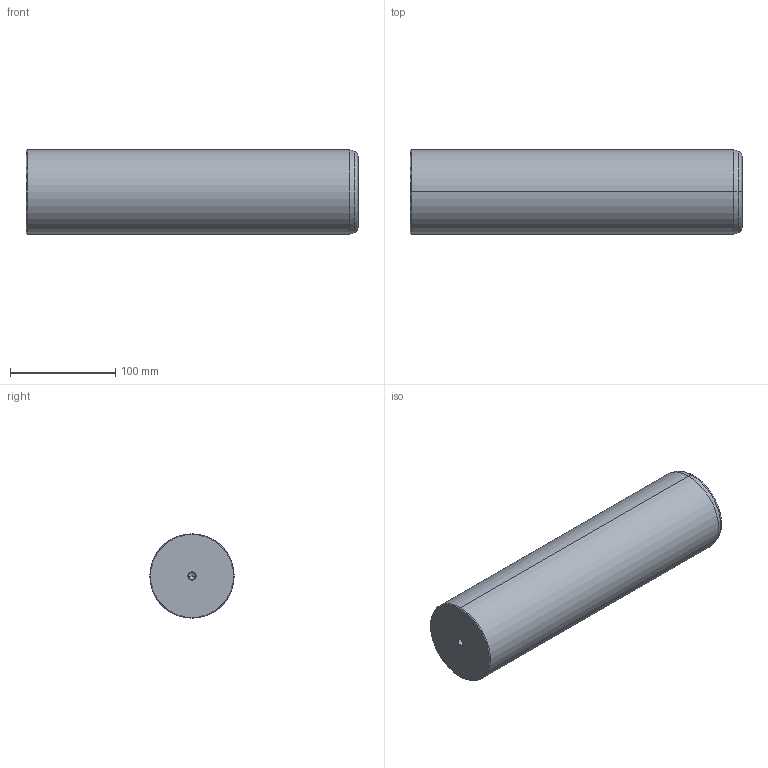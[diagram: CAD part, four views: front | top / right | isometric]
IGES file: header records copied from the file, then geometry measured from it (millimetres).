
Start section: START RECORD GO HERE.
Global section: file name: 720-80x315.igs; native system: DASSAULT SYSTEMES CATIA V5 R20 - www.3ds.com; preprocessor: CATIA Version 5 Release 20 ; author: Utente; organization: NB04-ASUS; date: 20201230.222317; units: millimetre
Bounding box: 315 x 80 x 80 mm (x, y, z)
Surface area: 89327.1 mm2 (no closed solid volume)
Topology: 0 solids, 0 shells, 22 faces, 120 edges, 116 vertices
Faces by surface type: revolution 20, plane 2
